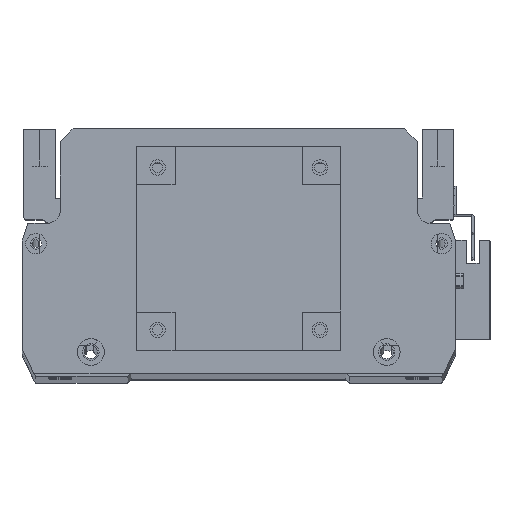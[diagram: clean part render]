
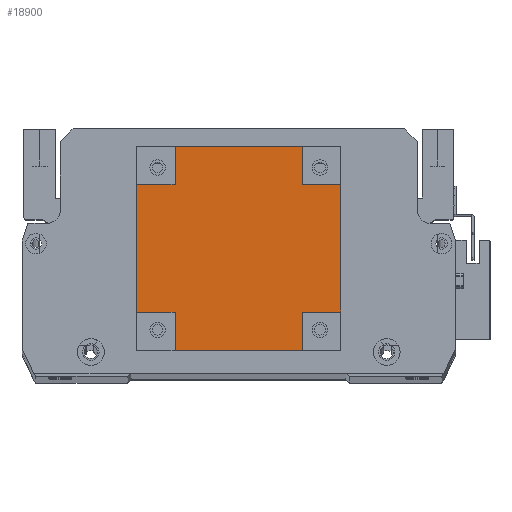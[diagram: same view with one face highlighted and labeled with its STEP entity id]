
A CAD part, top view. The second image highlights one B-rep face of the part: STEP entity #18900.
In plain terms, the highlighted planar face has unit normal (0, 0, 1).
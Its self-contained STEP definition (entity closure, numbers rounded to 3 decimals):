
#75 = VERTEX_POINT ( 'NONE', #4377 ) ;
#180 = ORIENTED_EDGE ( 'NONE', *, *, #21263, .F. ) ;
#427 = VERTEX_POINT ( 'NONE', #3074 ) ;
#920 = ORIENTED_EDGE ( 'NONE', *, *, #27877, .T. ) ;
#1268 = LINE ( 'NONE', #5179, #24340 ) ;
#1523 = CARTESIAN_POINT ( 'NONE',  ( 15., 80., 101.5 ) ) ;
#1678 = ORIENTED_EDGE ( 'NONE', *, *, #9895, .F. ) ;
#2015 = DIRECTION ( 'NONE',  ( -1., 0., 0. ) ) ;
#2205 = VECTOR ( 'NONE', #5235, 1000. ) ;
#2377 = VERTEX_POINT ( 'NONE', #16050 ) ;
#3074 = CARTESIAN_POINT ( 'NONE',  ( 15., 0., 101.5 ) ) ;
#3937 = CARTESIAN_POINT ( 'NONE',  ( 65., 0., 101.5 ) ) ;
#4377 = CARTESIAN_POINT ( 'NONE',  ( 65., 80., 101.5 ) ) ;
#5117 = VECTOR ( 'NONE', #7878, 1000. ) ;
#5179 = CARTESIAN_POINT ( 'NONE',  ( 0., 0., 101.5 ) ) ;
#5235 = DIRECTION ( 'NONE',  ( 1., 0., 0. ) ) ;
#5722 = CARTESIAN_POINT ( 'NONE',  ( 0., 0., 101.5 ) ) ;
#5738 = VERTEX_POINT ( 'NONE', #14130 ) ;
#5805 = LINE ( 'NONE', #24878, #5117 ) ;
#6223 = DIRECTION ( 'NONE',  ( 0., 1., 0. ) ) ;
#6504 = LINE ( 'NONE', #5722, #17203 ) ;
#6900 = VERTEX_POINT ( 'NONE', #8914 ) ;
#7155 = DIRECTION ( 'NONE',  ( 0., -1., 0. ) ) ;
#7355 = LINE ( 'NONE', #25246, #23623 ) ;
#7878 = DIRECTION ( 'NONE',  ( 0., 1., 0. ) ) ;
#8158 = DIRECTION ( 'NONE',  ( 0., 1., 0. ) ) ;
#8342 = VECTOR ( 'NONE', #7155, 1000. ) ;
#8648 = DIRECTION ( 'NONE',  ( 0., -1., 0. ) ) ;
#8914 = CARTESIAN_POINT ( 'NONE',  ( 80., 15., 101.5 ) ) ;
#9528 = ORIENTED_EDGE ( 'NONE', *, *, #26668, .T. ) ;
#9895 = EDGE_CURVE ( 'NONE', #75, #19636, #19646, .T. ) ;
#10129 = VERTEX_POINT ( 'NONE', #24908 ) ;
#10703 = LINE ( 'NONE', #1523, #26324 ) ;
#10988 = EDGE_CURVE ( 'NONE', #6900, #18700, #21560, .T. ) ;
#11493 = DIRECTION ( 'NONE',  ( -1., 0., 0. ) ) ;
#11618 = CARTESIAN_POINT ( 'NONE',  ( 0., 65., 101.5 ) ) ;
#12036 = CARTESIAN_POINT ( 'NONE',  ( 65., 15., 101.5 ) ) ;
#12471 = AXIS2_PLACEMENT_3D ( 'NONE', #22047, #24186, #11493 ) ;
#12547 = DIRECTION ( 'NONE',  ( 1., 0., 0. ) ) ;
#12770 = EDGE_CURVE ( 'NONE', #19636, #18700, #18870, .T. ) ;
#12792 = VERTEX_POINT ( 'NONE', #11618 ) ;
#12813 = VECTOR ( 'NONE', #8648, 1000. ) ;
#13264 = ORIENTED_EDGE ( 'NONE', *, *, #26998, .F. ) ;
#14077 = VERTEX_POINT ( 'NONE', #12036 ) ;
#14130 = CARTESIAN_POINT ( 'NONE',  ( 0., 15., 101.5 ) ) ;
#14196 = EDGE_CURVE ( 'NONE', #6900, #14077, #17804, .T. ) ;
#14651 = ORIENTED_EDGE ( 'NONE', *, *, #15576, .F. ) ;
#14765 = ORIENTED_EDGE ( 'NONE', *, *, #10988, .T. ) ;
#15060 = VERTEX_POINT ( 'NONE', #3937 ) ;
#15278 = VECTOR ( 'NONE', #8158, 1000. ) ;
#15576 = EDGE_CURVE ( 'NONE', #14077, #15060, #23381, .T. ) ;
#15633 = CARTESIAN_POINT ( 'NONE',  ( 65., 65., 101.5 ) ) ;
#15713 = ORIENTED_EDGE ( 'NONE', *, *, #17888, .T. ) ;
#15979 = VECTOR ( 'NONE', #2015, 1000. ) ;
#16050 = CARTESIAN_POINT ( 'NONE',  ( 15., 80., 101.5 ) ) ;
#16364 = DIRECTION ( 'NONE',  ( 0., -1., 0. ) ) ;
#16619 = ORIENTED_EDGE ( 'NONE', *, *, #12770, .F. ) ;
#16685 = DIRECTION ( 'NONE',  ( -1., 0., 0. ) ) ;
#16863 = VECTOR ( 'NONE', #16685, 1000. ) ;
#16970 = ORIENTED_EDGE ( 'NONE', *, *, #14196, .F. ) ;
#17194 = LINE ( 'NONE', #27371, #17846 ) ;
#17203 = VECTOR ( 'NONE', #16364, 1000. ) ;
#17343 = LINE ( 'NONE', #23534, #15979 ) ;
#17804 = LINE ( 'NONE', #27267, #16863 ) ;
#17822 = PLANE ( 'NONE',  #12471 ) ;
#17846 = VECTOR ( 'NONE', #18914, 1000. ) ;
#17888 = EDGE_CURVE ( 'NONE', #12792, #5738, #6504, .T. ) ;
#18449 = EDGE_CURVE ( 'NONE', #427, #10129, #5805, .T. ) ;
#18700 = VERTEX_POINT ( 'NONE', #21502 ) ;
#18870 = LINE ( 'NONE', #20159, #2205 ) ;
#18900 = ADVANCED_FACE ( 'NONE', ( #19126 ), #17822, .F. ) ;
#18914 = DIRECTION ( 'NONE',  ( -1., 0., 0. ) ) ;
#19126 = FACE_OUTER_BOUND ( 'NONE', #23744, .T. ) ;
#19624 = ORIENTED_EDGE ( 'NONE', *, *, #18449, .F. ) ;
#19636 = VERTEX_POINT ( 'NONE', #15633 ) ;
#19646 = LINE ( 'NONE', #19905, #8342 ) ;
#19712 = VERTEX_POINT ( 'NONE', #20566 ) ;
#19905 = CARTESIAN_POINT ( 'NONE',  ( 65., 80., 101.5 ) ) ;
#20097 = DIRECTION ( 'NONE',  ( 1., 0., 0. ) ) ;
#20159 = CARTESIAN_POINT ( 'NONE',  ( 65., 65., 101.5 ) ) ;
#20566 = CARTESIAN_POINT ( 'NONE',  ( 15., 65., 101.5 ) ) ;
#20797 = CARTESIAN_POINT ( 'NONE',  ( 80., 0., 101.5 ) ) ;
#21263 = EDGE_CURVE ( 'NONE', #10129, #5738, #17194, .T. ) ;
#21365 = CARTESIAN_POINT ( 'NONE',  ( 65., 0., 101.5 ) ) ;
#21502 = CARTESIAN_POINT ( 'NONE',  ( 80., 65., 101.5 ) ) ;
#21560 = LINE ( 'NONE', #20797, #15278 ) ;
#22047 = CARTESIAN_POINT ( 'NONE',  ( 0., 0., 101.5 ) ) ;
#23080 = ORIENTED_EDGE ( 'NONE', *, *, #24092, .F. ) ;
#23381 = LINE ( 'NONE', #21365, #12813 ) ;
#23534 = CARTESIAN_POINT ( 'NONE',  ( 0., 80., 101.5 ) ) ;
#23623 = VECTOR ( 'NONE', #12547, 1000. ) ;
#23744 = EDGE_LOOP ( 'NONE', ( #920, #13264, #23080, #15713, #180, #19624, #9528, #14651, #16970, #14765, #16619, #1678 ) ) ;
#24092 = EDGE_CURVE ( 'NONE', #12792, #19712, #7355, .T. ) ;
#24186 = DIRECTION ( 'NONE',  ( 0., 0., -1. ) ) ;
#24340 = VECTOR ( 'NONE', #20097, 1000. ) ;
#24878 = CARTESIAN_POINT ( 'NONE',  ( 15., 0., 101.5 ) ) ;
#24908 = CARTESIAN_POINT ( 'NONE',  ( 15., 15., 101.5 ) ) ;
#25246 = CARTESIAN_POINT ( 'NONE',  ( 0., 65., 101.5 ) ) ;
#26324 = VECTOR ( 'NONE', #6223, 1000. ) ;
#26668 = EDGE_CURVE ( 'NONE', #427, #15060, #1268, .T. ) ;
#26998 = EDGE_CURVE ( 'NONE', #19712, #2377, #10703, .T. ) ;
#27267 = CARTESIAN_POINT ( 'NONE',  ( 80., 15., 101.5 ) ) ;
#27371 = CARTESIAN_POINT ( 'NONE',  ( 0., 15., 101.5 ) ) ;
#27877 = EDGE_CURVE ( 'NONE', #75, #2377, #17343, .T. ) ;
